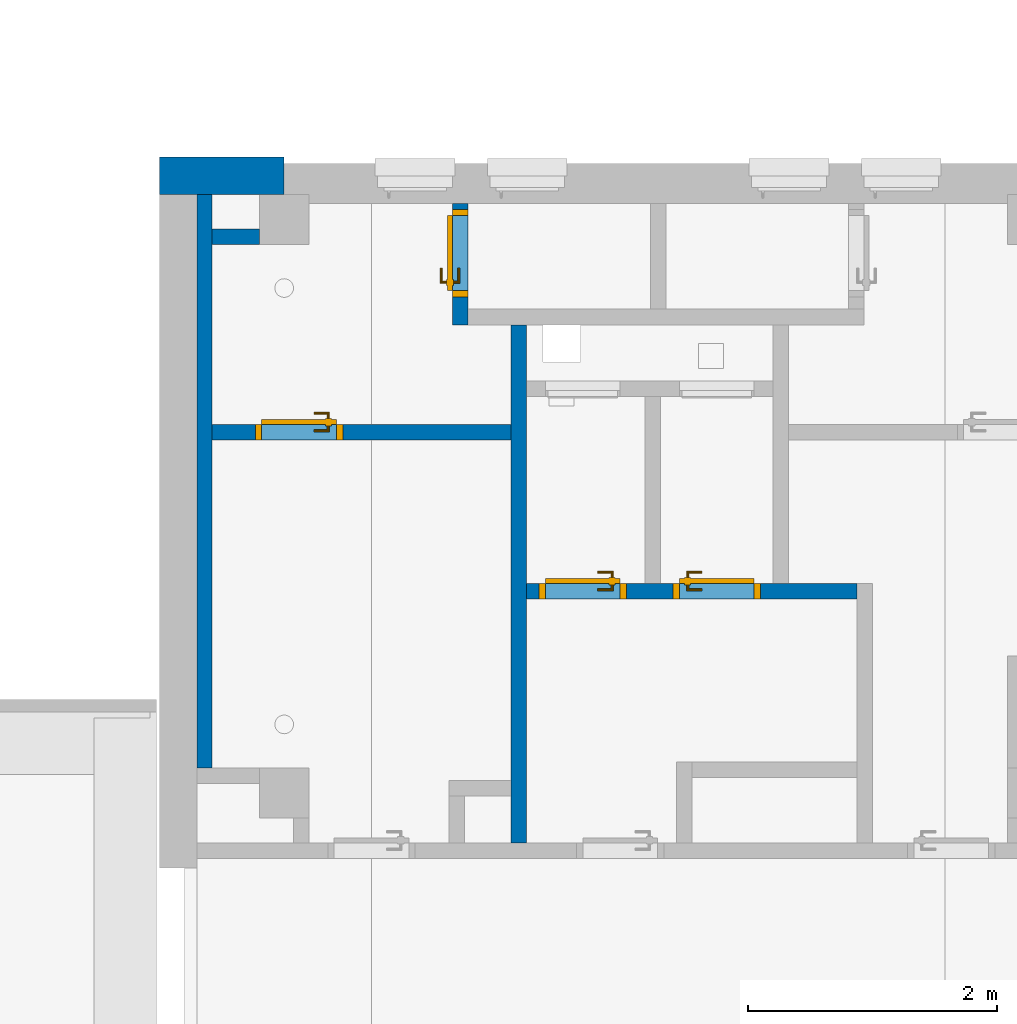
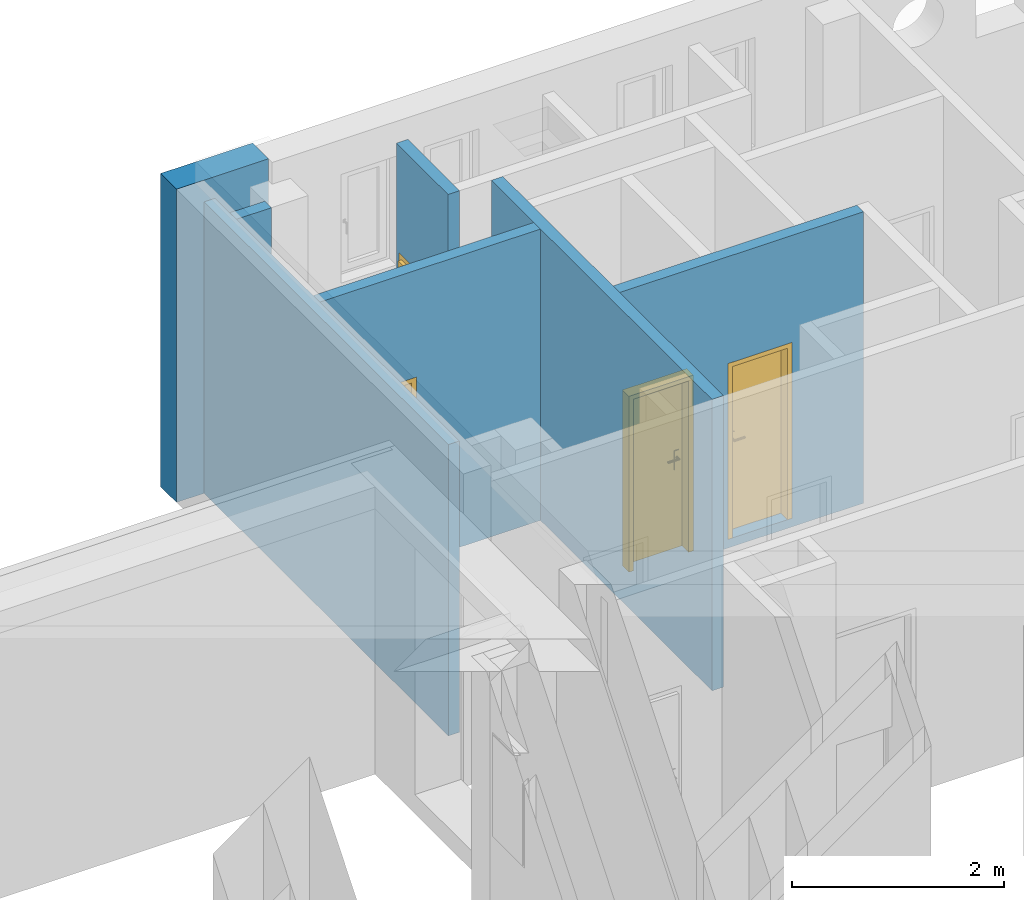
# One storey, part 10 of 50: 7 walls, 4 doors, 4 openings.
"""IFC4 building model written with IfcOpenShell, lengths in metres."""

from ifc_helpers import new_model, entity, si_unit, converted_unit, derived_unit, frame, frame_2d, origin, origin_with_axes, place, context, subcontext, project, spatial, polyline, rectangle, outline, extrude, closed_shell, open_shell, surface_model, source, transform, mapped, material, layer, layer_set, layer_usage, type_object, element, fill, save


model = new_model("IFC4")

# Units and contexts
model_context = context("Model", 3, precision=1e-05, world=origin())
body_context = subcontext(model_context, "Body", "Model", "MODEL_VIEW")
ifc_project = project(units=[si_unit("LENGTHUNIT", "METRE"), si_unit("AREAUNIT", "SQUARE_METRE"), si_unit("VOLUMEUNIT", "CUBIC_METRE"), si_unit("MASSUNIT", "GRAM", prefix="KILO"), converted_unit("PLANEANGLEUNIT", "DEGREE", entity("IfcPlaneAngleMeasure", 0.0174532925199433), si_unit("PLANEANGLEUNIT", "RADIAN"), dimensions=[0, 0, 0, 0, 0, 0, 0]), derived_unit("THERMALTRANSMITTANCEUNIT", [(si_unit("POWERUNIT", "WATT"), 1), (si_unit("THERMODYNAMICTEMPERATUREUNIT", "KELVIN"), -1), (si_unit("LENGTHUNIT", "METRE"), -2)]), derived_unit("VOLUMETRICFLOWRATEUNIT", [(si_unit("LENGTHUNIT", "METRE"), 3), (converted_unit("TIMEUNIT", "hour", entity("IfcTimeMeasure", 3600.0), si_unit("TIMEUNIT", "SECOND"), dimensions=[0, 0, 1, 0, 0, 0, 0]), -1), (si_unit("LENGTHUNIT", "METRE"), -1)])], contexts=[model_context])

# Site, building, storey
site_placement = place(None, origin())
site = spatial("IfcSite", under=ifc_project, at=site_placement, Name="3. ASŘ", CompositionType="ELEMENT")
building_placement = place(site_placement, origin())
building = spatial("IfcBuilding", under=site, at=building_placement, Name="Pavilon C", CompositionType="ELEMENT")
storey_placement = place(building_placement, frame((0.0, 0.0, 3.6)))
storey = spatial("IfcBuildingStorey", under=building, at=storey_placement, Name="Půdorys 2.NP", CompositionType="ELEMENT", Elevation=3.6)

# Walls
ifc_material_1 = material(Name="ZELEZOBETONOVÁ KCE")
ifc_layer_1 = layer(ifc_material_1, 0.3)
ifc_layer_set_1 = layer_set([ifc_layer_1])
ifc_layer_usage_1 = layer_usage(ifc_layer_set_1, "AXIS2", "POSITIVE", 0.0)
wall_1_placement = place(storey_placement, frame((4.09391348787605e-15, 15.3, -0.1), z_axis=(0.0, 0.0, 1.0), x_axis=(-1.0, 0.0, 0.0)))
element("IfcWall", 1, at=wall_1_placement, inside=storey, material=ifc_layer_usage_1, Name="ZELEZOBETONOVÁ KCE", context=body_context, shape_type="SweptSolid", body=[
    extrude(rectangle(XDim=1.0, YDim=0.3, at=frame_2d((0.500000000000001, 0.15), x_axis=(1.0, 0.0))), origin_with_axes(), (0.0, 0.0, 1.0), 3.6),
])
ifc_material_2 = material(Name="PÓROBETONOVÉ ZDIVO")
ifc_layer_2 = layer(ifc_material_2, 0.12)
ifc_layer_set_2 = layer_set([ifc_layer_2])
ifc_layer_usage_2 = layer_usage(ifc_layer_set_2, "AXIS2", "POSITIVE", 0.0)
wall_2_placement = place(storey_placement, frame((-0.699999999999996, 15.0, -0.1), z_axis=(0.0, 0.0, 1.0), x_axis=(-4.94290598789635e-17, -1.0, 0.0)))
element("IfcWall", 2, at=wall_2_placement, inside=storey, material=ifc_layer_usage_2, Name="PÓROBETONOVÉ ZDIVO", context=body_context, shape_type="SweptSolid", body=[
    extrude(rectangle(XDim=4.6, YDim=0.12, at=frame_2d((2.3, 0.06), x_axis=(1.0, 0.0))), origin_with_axes(), (0.0, 0.0, 1.0), 3.35),
])
ifc_material_3 = material(Name="ZDIVO Z CDm")
ifc_layer_3 = layer(ifc_material_3, 0.125)
ifc_layer_set_3 = layer_set([ifc_layer_3])
ifc_layer_usage_3 = layer_usage(ifc_layer_set_3, "AXIS2", "POSITIVE", 0.0)
wall_3_placement = place(storey_placement, frame((-0.579999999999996, 14.6, -0.1)))
element("IfcWall", 3, at=wall_3_placement, inside=storey, material=ifc_layer_usage_3, Name="ZDIVO Z CDm", context=body_context, shape_type="SweptSolid", body=[
    extrude(rectangle(XDim=0.380000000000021, YDim=0.125, at=frame_2d((0.190000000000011, 0.0625), x_axis=(1.0, 0.0))), origin_with_axes(), (0.0, 0.0, 1.0), 3.35),
])

# Wall, opening, door
ifc_material_4 = material(Name="ZDIVO Z CDm")
ifc_layer_4 = layer(ifc_material_4, 0.125)
ifc_layer_set_4 = layer_set([ifc_layer_4])
ifc_layer_usage_4 = layer_usage(ifc_layer_set_4, "AXIS2", "POSITIVE", 0.0)
wall_4_placement = place(storey_placement, frame((1.82, 13.155, -0.1), z_axis=(0.0, 0.0, 1.0), x_axis=(-1.0, 0.0, 0.0)))
wall_4 = element("IfcWall", 4, at=wall_4_placement, inside=storey, material=ifc_layer_usage_4, Name="ZDIVO Z CDm", context=body_context, shape_type="SweptSolid", body=[
    extrude(rectangle(XDim=2.4, YDim=0.125, at=frame_2d((1.2, 0.0625), x_axis=(1.0, 0.0))), origin_with_axes(), (0.0, 0.0, 1.0), 3.35),
])
opening_1_placement = place(wall_4_placement, frame((1.35, 0.0, 0.1), z_axis=(0.0, 1.0, 0.0), x_axis=(0.0, 0.0, 1.0)))
opening_1 = element("IfcOpeningElement", 5, at=opening_1_placement, cuts=wall_4, Name="Dveřní otvor", ObjectType="Opening", context=body_context, shape_type="SweptSolid", body=[
    extrude(outline(polyline([(0.0, 0.7), (2.02, 0.7), (2.02, 0.0), (0.0, 0.0), (0.0, 0.7)])), origin_with_axes(), (0.0, 0.0, 1.0), 0.125),
])
door_type_1 = type_object("IfcDoorType", Name="D101", OperationType="NOTDEFINED", ParameterTakesPrecedence=False, PredefinedType="DOOR")
shared_shape_1 = source(origin_with_axes(), body_context, "Body", "SurfaceModel", [
    surface_model("IfcShellBasedSurfaceModel", [(0.0, 0.125, 2.02), (0.0, 0.125, -7.65404249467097e-18), (0.05, 0.125, -7.65404249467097e-18), (0.05, 0.125, 2.02), (0.0, 0.0, 7.65404249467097e-18), (0.0, 2.41584530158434e-16, 2.02), (0.05, 2.41584530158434e-16, 2.02), (0.05, 0.0, 7.65404249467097e-18)], [closed_shell([[[0, 1, 2, 3]], [[4, 5, 6, 7]], [[1, 0, 5, 4]], [[2, 1, 4, 7]], [[3, 2, 7, 6]], [[0, 3, 6, 5]]], orient=[[False], [False], [False], [False], [False], [False]])]),
    surface_model("IfcShellBasedSurfaceModel", [(0.65, 0.125, 2.02), (0.65, 0.125, -7.65404249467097e-18), (0.7, 0.125, -7.65404249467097e-18), (0.7, 0.125, 2.02), (0.65, 0.0, 7.65404249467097e-18), (0.65, 2.41584530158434e-16, 2.02), (0.7, 2.41584530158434e-16, 2.02), (0.7, 0.0, 7.65404249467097e-18)], [closed_shell([[[0, 1, 2, 3]], [[4, 5, 6, 7]], [[1, 0, 5, 4]], [[2, 1, 4, 7]], [[3, 2, 7, 6]], [[0, 3, 6, 5]]], orient=[[False], [False], [False], [False], [False], [False]])]),
    surface_model("IfcShellBasedSurfaceModel", [(0.05, 0.125, 2.02), (0.05, 0.125, 1.97), (0.65, 0.125, 1.97), (0.65, 0.125, 2.02), (0.05, 2.41584530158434e-16, 1.97), (0.05, 2.41584530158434e-16, 2.02), (0.65, 2.41584530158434e-16, 2.02), (0.65, 2.41584530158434e-16, 1.97)], [closed_shell([[[0, 1, 2, 3]], [[4, 5, 6, 7]], [[1, 0, 5, 4]], [[2, 1, 4, 7]], [[3, 2, 7, 6]], [[0, 3, 6, 5]]], orient=[[False], [False], [False], [False], [False], [False]])]),
    surface_model("IfcShellBasedSurfaceModel", [(0.05, 0.165, 1.97), (0.05, 0.165, -1.25526296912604e-17), (0.65, 0.165, -1.25526296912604e-17), (0.65, 0.165, 1.97), (0.05, 0.125, -7.65404249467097e-18), (0.05, 0.125, 1.97), (0.65, 0.125, 1.97), (0.65, 0.125, -7.65404249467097e-18)], [closed_shell([[[0, 1, 2, 3]], [[4, 5, 6, 7]], [[1, 0, 5, 4]], [[2, 1, 4, 7]], [[3, 2, 7, 6]], [[0, 3, 6, 5]]], orient=[[False], [False], [False], [False], [False], [False]])]),
    surface_model("IfcShellBasedSurfaceModel", [(0.56, 0.125, 1.125), (0.56, 0.125, 0.91), (0.61, 0.125, 0.91), (0.61, 0.125, 1.125), (0.56, 0.115, 0.91), (0.56, 0.115, 1.125), (0.61, 0.115, 1.125), (0.61, 0.115, 0.91)], [closed_shell([[[0, 1, 2, 3]], [[4, 5, 6, 7]], [[1, 0, 5, 4]], [[2, 1, 4, 7]], [[3, 2, 7, 6]], [[0, 3, 6, 5]]], orient=[[False], [False], [False], [False], [False], [False]])]),
    surface_model("IfcShellBasedSurfaceModel", [(0.585, 0.115, 1.06), (0.58, 0.115, 1.05866025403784), (0.576339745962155, 0.115, 1.055), (0.575, 0.115, 1.05), (0.576339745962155, 0.115, 1.045), (0.58, 0.115, 1.04133974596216), (0.585, 0.115, 1.04), (0.59, 0.115, 1.04133974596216), (0.593660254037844, 0.115, 1.045), (0.595, 0.115, 1.05), (0.593660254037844, 0.115, 1.055), (0.59, 0.115, 1.05866025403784), (0.59, 0.0700000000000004, 1.05866025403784), (0.585, 0.0750000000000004, 1.06), (0.593660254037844, 0.066339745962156, 1.055), (0.595, 0.0650000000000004, 1.05), (0.593660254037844, 0.066339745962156, 1.045), (0.59, 0.0700000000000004, 1.04133974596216), (0.585, 0.0750000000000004, 1.04), (0.58, 0.0800000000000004, 1.04133974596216), (0.576339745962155, 0.0836602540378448, 1.045), (0.575, 0.0850000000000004, 1.05), (0.576339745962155, 0.0836602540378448, 1.055), (0.58, 0.0800000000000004, 1.05866025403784), (0.47, 0.0700000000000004, 1.05866025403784), (0.47, 0.0750000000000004, 1.06), (0.47, 0.066339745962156, 1.055), (0.47, 0.0650000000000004, 1.05), (0.47, 0.066339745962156, 1.045), (0.47, 0.0700000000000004, 1.04133974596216), (0.47, 0.0750000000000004, 1.04), (0.47, 0.0800000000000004, 1.04133974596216), (0.47, 0.0836602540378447, 1.045), (0.47, 0.0850000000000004, 1.05), (0.47, 0.0836602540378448, 1.055), (0.47, 0.0800000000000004, 1.05866025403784)], [open_shell([[[0, 1, 2, 3, 4, 5, 6, 7, 8, 9, 10, 11]], [[0, 11, 12, 13]], [[11, 10, 14, 12]], [[10, 9, 15, 14]], [[9, 8, 16, 15]], [[8, 7, 17, 16]], [[7, 6, 18, 17]], [[6, 5, 19, 18]], [[5, 4, 20, 19]], [[4, 3, 21, 20]], [[3, 2, 22, 21]], [[2, 1, 23, 22]], [[1, 0, 13, 23]], [[13, 12, 24, 25]], [[12, 14, 26, 24]], [[14, 15, 27, 26]], [[15, 16, 28, 27]], [[16, 17, 29, 28]], [[17, 18, 30, 29]], [[18, 19, 31, 30]], [[19, 20, 32, 31]], [[20, 21, 33, 32]], [[21, 22, 34, 33]], [[22, 23, 35, 34]], [[23, 13, 25, 35]]], orient=[[False], [False], [False], [False], [False], [False], [False], [False], [False], [False], [False], [False], [False], [False], [False], [False], [False], [False], [False], [False], [False], [False], [False], [False], [False]])]),
    surface_model("IfcShellBasedSurfaceModel", [(0.56, 0.165, 1.125), (0.61, 0.165, 1.125), (0.61, 0.165, 0.91), (0.56, 0.165, 0.91), (0.56, 0.175, 0.91), (0.61, 0.175, 0.91), (0.61, 0.175, 1.125), (0.56, 0.175, 1.125)], [closed_shell([[[0, 1, 2, 3]], [[4, 5, 6, 7]], [[3, 4, 7, 0]], [[2, 5, 4, 3]], [[1, 6, 5, 2]], [[0, 7, 6, 1]]], orient=[[False], [False], [False], [False], [False], [False]])]),
    surface_model("IfcShellBasedSurfaceModel", [(0.585, 0.175, 1.06), (0.59, 0.175, 1.05866025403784), (0.593660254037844, 0.175, 1.055), (0.595, 0.175, 1.05), (0.593660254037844, 0.175, 1.045), (0.59, 0.175, 1.04133974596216), (0.585, 0.175, 1.04), (0.58, 0.175, 1.04133974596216), (0.576339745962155, 0.175, 1.045), (0.575, 0.175, 1.05), (0.576339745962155, 0.175, 1.055), (0.58, 0.175, 1.05866025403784), (0.585, 0.215, 1.06), (0.59, 0.22, 1.05866025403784), (0.593660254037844, 0.223660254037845, 1.055), (0.595, 0.225, 1.05), (0.593660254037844, 0.223660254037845, 1.045), (0.59, 0.22, 1.04133974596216), (0.585, 0.215, 1.04), (0.58, 0.21, 1.04133974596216), (0.576339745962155, 0.206339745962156, 1.045), (0.575, 0.205, 1.05), (0.576339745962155, 0.206339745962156, 1.055), (0.58, 0.21, 1.05866025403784), (0.47, 0.215, 1.06), (0.47, 0.22, 1.05866025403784), (0.47, 0.223660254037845, 1.055), (0.47, 0.225, 1.05), (0.47, 0.223660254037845, 1.045), (0.47, 0.22, 1.04133974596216), (0.47, 0.215, 1.04), (0.47, 0.21, 1.04133974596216), (0.47, 0.206339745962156, 1.045), (0.47, 0.205, 1.05), (0.47, 0.206339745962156, 1.055), (0.47, 0.21, 1.05866025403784)], [open_shell([[[0, 1, 2, 3, 4, 5, 6, 7, 8, 9, 10, 11]], [[0, 12, 13, 1]], [[1, 13, 14, 2]], [[2, 14, 15, 3]], [[3, 15, 16, 4]], [[4, 16, 17, 5]], [[5, 17, 18, 6]], [[6, 18, 19, 7]], [[7, 19, 20, 8]], [[8, 20, 21, 9]], [[9, 21, 22, 10]], [[10, 22, 23, 11]], [[11, 23, 12, 0]], [[12, 24, 25, 13]], [[13, 25, 26, 14]], [[14, 26, 27, 15]], [[15, 27, 28, 16]], [[16, 28, 29, 17]], [[17, 29, 30, 18]], [[18, 30, 31, 19]], [[19, 31, 32, 20]], [[20, 32, 33, 21]], [[21, 33, 34, 22]], [[22, 34, 35, 23]], [[23, 35, 24, 12]]], orient=[[False], [False], [False], [False], [False], [False], [False], [False], [False], [False], [False], [False], [False], [False], [False], [False], [False], [False], [False], [False], [False], [False], [False], [False], [False]])]),
])
door_1_placement = place(opening_1_placement, frame((0.0, 0.7, 0.125), z_axis=(1.0, 0.0, 0.0), x_axis=(0.0, -1.0, 2.44929359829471e-16)))
door_1 = element("IfcDoor", 6, at=door_1_placement, inside=storey, type_object=door_type_1, Name="D101", OverallHeight=2.02, OverallWidth=0.7, context=body_context, shape_type="MappedRepresentation", body=[
    mapped(shared_shape_1, transform((0.0, 0.0, 0.0), x_axis=(1.0, 0.0, 0.0), y_axis=(0.0, 1.0, 0.0), z_axis=(0.0, 0.0, 1.0), scale=1.0)),
])
fill(opening_1, door_1)

ifc_material_5 = material(Name="ZDIVO Z CDm")
ifc_layer_5 = layer(ifc_material_5, 0.125)
ifc_layer_set_5 = layer_set([ifc_layer_5])
ifc_layer_usage_5 = layer_usage(ifc_layer_set_5, "AXIS2", "POSITIVE", 0.0)
wall_5_placement = place(storey_placement, frame((1.35, 14.93, -0.1), z_axis=(0.0, 0.0, 1.0), x_axis=(-2.33203769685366e-16, -1.0, 0.0)))
wall_5 = element("IfcWall", 7, at=wall_5_placement, inside=storey, material=ifc_layer_usage_5, Name="ZDIVO Z CDm", context=body_context, shape_type="SweptSolid", body=[
    extrude(rectangle(XDim=0.975, YDim=0.125, at=frame_2d((0.4875, 0.0625), x_axis=(1.0, 0.0))), origin_with_axes(), (0.0, 0.0, 1.0), 3.35),
])
opening_2_placement = place(wall_5_placement, frame((0.750000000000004, 0.125, 0.1), z_axis=(0.0, -1.0, 0.0), x_axis=(0.0, 0.0, 1.0)))
opening_2 = element("IfcOpeningElement", 8, at=opening_2_placement, cuts=wall_5, Name="Dveřní otvor", ObjectType="Opening", context=body_context, shape_type="SweptSolid", body=[
    extrude(outline(polyline([(0.0, 0.7), (2.02, 0.7), (2.02, 0.0), (0.0, 0.0), (0.0, 0.7)])), origin_with_axes(), (0.0, 0.0, 1.0), 0.125),
])
door_type_2 = type_object("IfcDoorType", Name="D101", OperationType="NOTDEFINED", ParameterTakesPrecedence=False, PredefinedType="DOOR")
door_2_placement = place(opening_2_placement, frame((0.0, 0.699999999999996, -9.09494701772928e-16), z_axis=(1.0, 0.0, 0.0), x_axis=(0.0, -1.0, -4.78133129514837e-16)))
door_2 = element("IfcDoor", 9, at=door_2_placement, inside=storey, type_object=door_type_2, Name="D101", OverallHeight=2.02, OverallWidth=0.7, context=body_context, shape_type="MappedRepresentation", body=[
    mapped(shared_shape_1, transform((0.0, 0.0, 0.0), x_axis=(1.0, 0.0, 0.0), y_axis=(0.0, -1.0, 0.0), z_axis=(0.0, 0.0, 1.0), scale=1.0)),
])
fill(opening_2, door_2)

# Wall, openings, doors
ifc_material_6 = material(Name="ZDIVO Z CDm")
ifc_layer_6 = layer(ifc_material_6, 0.125)
ifc_layer_set_6 = layer_set([ifc_layer_6])
ifc_layer_usage_6 = layer_usage(ifc_layer_set_6, "AXIS2", "POSITIVE", 0.0)
wall_6_placement = place(storey_placement, frame((4.59500000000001, 11.88, -0.1), z_axis=(0.0, 0.0, 1.0), x_axis=(-1.0, 0.0, 0.0)))
wall_6 = element("IfcWall", 10, at=wall_6_placement, inside=storey, material=ifc_layer_usage_6, Name="ZDIVO Z CDm", context=body_context, shape_type="SweptSolid", body=[
    extrude(rectangle(XDim=2.65, YDim=0.125, at=frame_2d((1.325, 0.0625), x_axis=(1.0, 0.0))), origin_with_axes(), (0.0, 0.0, 1.0), 3.35),
])
opening_3_placement = place(wall_6_placement, frame((1.85, 0.0, 0.1), z_axis=(0.0, 1.0, 0.0), x_axis=(0.0, 0.0, 1.0)))
opening_3 = element("IfcOpeningElement", 11, at=opening_3_placement, cuts=wall_6, Name="Dveřní otvor", ObjectType="Opening", context=body_context, shape_type="SweptSolid", body=[
    extrude(outline(polyline([(0.0, 0.7), (2.02, 0.7), (2.02, 0.0), (0.0, 0.0), (0.0, 0.7)])), origin_with_axes(), (0.0, 0.0, 1.0), 0.125),
])
opening_4_placement = place(wall_6_placement, frame((0.775, 0.0, 0.1), z_axis=(0.0, 1.0, 0.0), x_axis=(0.0, 0.0, 1.0)))
opening_4 = element("IfcOpeningElement", 12, at=opening_4_placement, cuts=wall_6, Name="Dveřní otvor", ObjectType="Opening", context=body_context, shape_type="SweptSolid", body=[
    extrude(outline(polyline([(0.0, 0.7), (2.02, 0.7), (2.02, 0.0), (0.0, 0.0), (0.0, 0.7)])), origin_with_axes(), (0.0, 0.0, 1.0), 0.125),
])
door_type_3 = type_object("IfcDoorType", Name="D101", OperationType="NOTDEFINED", ParameterTakesPrecedence=False, PredefinedType="DOOR")
door_3_placement = place(opening_3_placement, frame((0.0, 0.7, 0.125), z_axis=(1.0, 0.0, 0.0), x_axis=(0.0, -1.0, 2.44929359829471e-16)))
door_3 = element("IfcDoor", 13, at=door_3_placement, inside=storey, type_object=door_type_3, Name="D101", OverallHeight=2.02, OverallWidth=0.7, context=body_context, shape_type="MappedRepresentation", body=[
    mapped(shared_shape_1, transform((0.0, 0.0, 0.0), x_axis=(1.0, 0.0, 0.0), y_axis=(0.0, 1.0, 0.0), z_axis=(0.0, 0.0, 1.0), scale=1.0)),
])
fill(opening_3, door_3)
door_type_4 = type_object("IfcDoorType", Name="D101", OperationType="NOTDEFINED", ParameterTakesPrecedence=False, PredefinedType="DOOR")
shared_shape_2 = source(origin_with_axes(), body_context, "Body", "SurfaceModel", [
    surface_model("IfcShellBasedSurfaceModel", [(0.0, 0.125, 2.02), (0.0, 0.125, -7.65404249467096e-18), (0.05, 0.125, -7.65404249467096e-18), (0.05, 0.125, 2.02), (0.0, 0.0, 7.65404249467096e-18), (0.0, 2.41584530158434e-16, 2.02), (0.05, 2.41584530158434e-16, 2.02), (0.05, 0.0, 7.65404249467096e-18)], [closed_shell([[[0, 1, 2, 3]], [[4, 5, 6, 7]], [[1, 0, 5, 4]], [[2, 1, 4, 7]], [[3, 2, 7, 6]], [[0, 3, 6, 5]]], orient=[[False], [False], [False], [False], [False], [False]])]),
    surface_model("IfcShellBasedSurfaceModel", [(0.65, 0.125, 2.02), (0.65, 0.125, -7.65404249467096e-18), (0.7, 0.125, -7.65404249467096e-18), (0.7, 0.125, 2.02), (0.65, 0.0, 7.65404249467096e-18), (0.65, 2.41584530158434e-16, 2.02), (0.7, 2.41584530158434e-16, 2.02), (0.7, 0.0, 7.65404249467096e-18)], [closed_shell([[[0, 1, 2, 3]], [[4, 5, 6, 7]], [[1, 0, 5, 4]], [[2, 1, 4, 7]], [[3, 2, 7, 6]], [[0, 3, 6, 5]]], orient=[[False], [False], [False], [False], [False], [False]])]),
    surface_model("IfcShellBasedSurfaceModel", [(0.05, 0.125, 2.02), (0.05, 0.125, 1.97), (0.65, 0.125, 1.97), (0.65, 0.125, 2.02), (0.05, 2.41584530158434e-16, 1.97), (0.05, 2.41584530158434e-16, 2.02), (0.65, 2.41584530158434e-16, 2.02), (0.65, 2.41584530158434e-16, 1.97)], [closed_shell([[[0, 1, 2, 3]], [[4, 5, 6, 7]], [[1, 0, 5, 4]], [[2, 1, 4, 7]], [[3, 2, 7, 6]], [[0, 3, 6, 5]]], orient=[[False], [False], [False], [False], [False], [False]])]),
    surface_model("IfcShellBasedSurfaceModel", [(0.05, 0.165, 1.97), (0.05, 0.165, -1.25526296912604e-17), (0.65, 0.165, -1.25526296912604e-17), (0.65, 0.165, 1.97), (0.05, 0.125, -7.65404249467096e-18), (0.05, 0.125, 1.97), (0.65, 0.125, 1.97), (0.65, 0.125, -7.65404249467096e-18)], [closed_shell([[[0, 1, 2, 3]], [[4, 5, 6, 7]], [[1, 0, 5, 4]], [[2, 1, 4, 7]], [[3, 2, 7, 6]], [[0, 3, 6, 5]]], orient=[[False], [False], [False], [False], [False], [False]])]),
    surface_model("IfcShellBasedSurfaceModel", [(0.56, 0.125, 1.125), (0.56, 0.125, 0.91), (0.61, 0.125, 0.91), (0.61, 0.125, 1.125), (0.56, 0.115, 0.91), (0.56, 0.115, 1.125), (0.61, 0.115, 1.125), (0.61, 0.115, 0.91)], [closed_shell([[[0, 1, 2, 3]], [[4, 5, 6, 7]], [[1, 0, 5, 4]], [[2, 1, 4, 7]], [[3, 2, 7, 6]], [[0, 3, 6, 5]]], orient=[[False], [False], [False], [False], [False], [False]])]),
    surface_model("IfcShellBasedSurfaceModel", [(0.585, 0.115, 1.06), (0.58, 0.115, 1.05866025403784), (0.576339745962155, 0.115, 1.055), (0.575, 0.115, 1.05), (0.576339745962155, 0.115, 1.045), (0.58, 0.115, 1.04133974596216), (0.585, 0.115, 1.04), (0.59, 0.115, 1.04133974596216), (0.593660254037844, 0.115, 1.045), (0.595, 0.115, 1.05), (0.593660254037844, 0.115, 1.055), (0.59, 0.115, 1.05866025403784), (0.59, 0.0700000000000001, 1.05866025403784), (0.585, 0.0750000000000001, 1.06), (0.593660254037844, 0.0663397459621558, 1.055), (0.595, 0.0650000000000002, 1.05), (0.593660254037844, 0.0663397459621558, 1.045), (0.59, 0.0700000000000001, 1.04133974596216), (0.585, 0.0750000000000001, 1.04), (0.58, 0.0800000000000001, 1.04133974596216), (0.576339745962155, 0.0836602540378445, 1.045), (0.575, 0.0850000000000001, 1.05), (0.576339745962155, 0.0836602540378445, 1.055), (0.58, 0.0800000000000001, 1.05866025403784), (0.47, 0.0700000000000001, 1.05866025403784), (0.47, 0.0750000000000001, 1.06), (0.47, 0.0663397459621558, 1.055), (0.47, 0.0650000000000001, 1.05), (0.47, 0.0663397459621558, 1.045), (0.47, 0.0700000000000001, 1.04133974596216), (0.47, 0.0750000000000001, 1.04), (0.47, 0.0800000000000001, 1.04133974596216), (0.47, 0.0836602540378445, 1.045), (0.47, 0.0850000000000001, 1.05), (0.47, 0.0836602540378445, 1.055), (0.47, 0.0800000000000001, 1.05866025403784)], [open_shell([[[0, 1, 2, 3, 4, 5, 6, 7, 8, 9, 10, 11]], [[0, 11, 12, 13]], [[11, 10, 14, 12]], [[10, 9, 15, 14]], [[9, 8, 16, 15]], [[8, 7, 17, 16]], [[7, 6, 18, 17]], [[6, 5, 19, 18]], [[5, 4, 20, 19]], [[4, 3, 21, 20]], [[3, 2, 22, 21]], [[2, 1, 23, 22]], [[1, 0, 13, 23]], [[13, 12, 24, 25]], [[12, 14, 26, 24]], [[14, 15, 27, 26]], [[15, 16, 28, 27]], [[16, 17, 29, 28]], [[17, 18, 30, 29]], [[18, 19, 31, 30]], [[19, 20, 32, 31]], [[20, 21, 33, 32]], [[21, 22, 34, 33]], [[22, 23, 35, 34]], [[23, 13, 25, 35]]], orient=[[False], [False], [False], [False], [False], [False], [False], [False], [False], [False], [False], [False], [False], [False], [False], [False], [False], [False], [False], [False], [False], [False], [False], [False], [False]])]),
    surface_model("IfcShellBasedSurfaceModel", [(0.56, 0.165, 1.125), (0.61, 0.165, 1.125), (0.61, 0.165, 0.91), (0.56, 0.165, 0.91), (0.56, 0.175, 0.91), (0.61, 0.175, 0.91), (0.61, 0.175, 1.125), (0.56, 0.175, 1.125)], [closed_shell([[[0, 1, 2, 3]], [[4, 5, 6, 7]], [[3, 4, 7, 0]], [[2, 5, 4, 3]], [[1, 6, 5, 2]], [[0, 7, 6, 1]]], orient=[[False], [False], [False], [False], [False], [False]])]),
    surface_model("IfcShellBasedSurfaceModel", [(0.585, 0.175, 1.06), (0.59, 0.175, 1.05866025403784), (0.593660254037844, 0.175, 1.055), (0.595, 0.175, 1.05), (0.593660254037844, 0.175, 1.045), (0.59, 0.175, 1.04133974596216), (0.585, 0.175, 1.04), (0.58, 0.175, 1.04133974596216), (0.576339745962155, 0.175, 1.045), (0.575, 0.175, 1.05), (0.576339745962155, 0.175, 1.055), (0.58, 0.175, 1.05866025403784), (0.585, 0.215, 1.06), (0.59, 0.22, 1.05866025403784), (0.593660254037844, 0.223660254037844, 1.055), (0.595, 0.225, 1.05), (0.593660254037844, 0.223660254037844, 1.045), (0.59, 0.22, 1.04133974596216), (0.585, 0.215, 1.04), (0.58, 0.21, 1.04133974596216), (0.576339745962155, 0.206339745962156, 1.045), (0.575, 0.205, 1.05), (0.576339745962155, 0.206339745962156, 1.055), (0.58, 0.21, 1.05866025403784), (0.47, 0.215, 1.06), (0.47, 0.22, 1.05866025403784), (0.47, 0.223660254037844, 1.055), (0.47, 0.225, 1.05), (0.47, 0.223660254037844, 1.045), (0.47, 0.22, 1.04133974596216), (0.47, 0.215, 1.04), (0.47, 0.21, 1.04133974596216), (0.47, 0.206339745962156, 1.045), (0.47, 0.205, 1.05), (0.47, 0.206339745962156, 1.055), (0.47, 0.21, 1.05866025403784)], [open_shell([[[0, 1, 2, 3, 4, 5, 6, 7, 8, 9, 10, 11]], [[0, 12, 13, 1]], [[1, 13, 14, 2]], [[2, 14, 15, 3]], [[3, 15, 16, 4]], [[4, 16, 17, 5]], [[5, 17, 18, 6]], [[6, 18, 19, 7]], [[7, 19, 20, 8]], [[8, 20, 21, 9]], [[9, 21, 22, 10]], [[10, 22, 23, 11]], [[11, 23, 12, 0]], [[12, 24, 25, 13]], [[13, 25, 26, 14]], [[14, 26, 27, 15]], [[15, 27, 28, 16]], [[16, 28, 29, 17]], [[17, 29, 30, 18]], [[18, 30, 31, 19]], [[19, 31, 32, 20]], [[20, 32, 33, 21]], [[21, 33, 34, 22]], [[22, 34, 35, 23]], [[23, 35, 24, 12]]], orient=[[False], [False], [False], [False], [False], [False], [False], [False], [False], [False], [False], [False], [False], [False], [False], [False], [False], [False], [False], [False], [False], [False], [False], [False], [False]])]),
])
door_4_placement = place(opening_4_placement, frame((0.0, 0.0, 0.125), z_axis=(1.0, 0.0, 0.0), x_axis=(0.0, 1.0, -2.44929359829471e-16)))
door_4 = element("IfcDoor", 14, at=door_4_placement, inside=storey, type_object=door_type_4, Name="D101", OverallHeight=2.02, OverallWidth=0.7, context=body_context, shape_type="MappedRepresentation", body=[
    mapped(shared_shape_2, transform((0.0, 0.0, 0.0), x_axis=(1.0, 0.0, 0.0), y_axis=(0.0, -1.0, 0.0), z_axis=(0.0, 0.0, 1.0), scale=1.0)),
])
fill(opening_4, door_4)

# Wall
ifc_material_7 = material(Name="ZDIVO Z CDm")
ifc_layer_7 = layer(ifc_material_7, 0.125)
ifc_layer_set_7 = layer_set([ifc_layer_7])
ifc_layer_usage_7 = layer_usage(ifc_layer_set_7, "AXIS2", "POSITIVE", 0.0)
wall_7_placement = place(storey_placement, frame((1.82, 13.955, -0.1), z_axis=(0.0, 0.0, 1.0), x_axis=(-5.47229062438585e-17, -1.0, 0.0)))
element("IfcWall", 15, at=wall_7_placement, inside=storey, material=ifc_layer_usage_7, Name="ZDIVO Z CDm", context=body_context, shape_type="SweptSolid", body=[
    extrude(rectangle(XDim=4.155, YDim=0.125, at=frame_2d((2.0775, 0.0625), x_axis=(1.0, 0.0))), origin_with_axes(), (0.0, 0.0, 1.0), 3.35),
])

save(model, "model.ifc")
